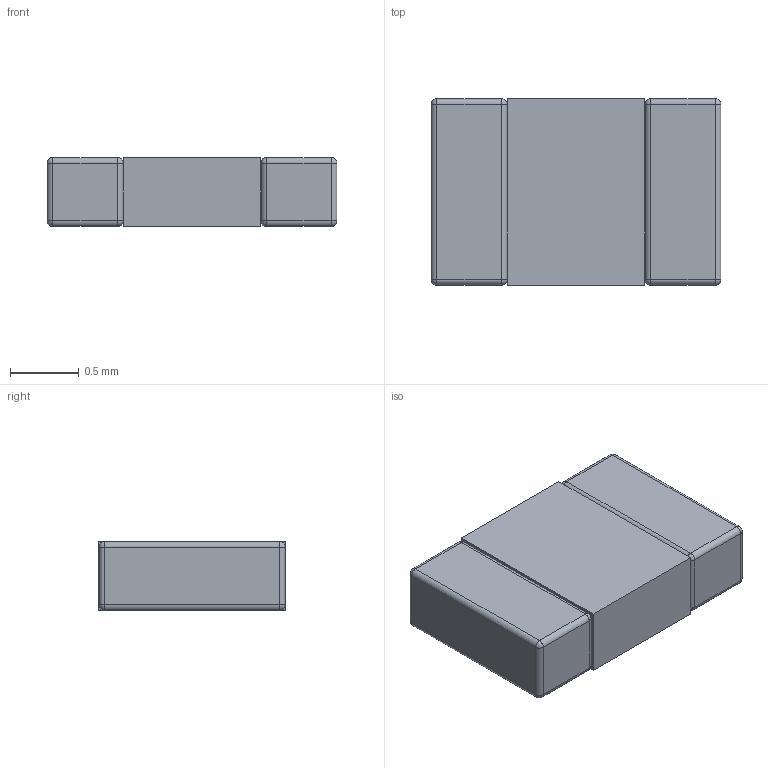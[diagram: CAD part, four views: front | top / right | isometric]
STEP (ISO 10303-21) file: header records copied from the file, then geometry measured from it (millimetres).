
FILE_DESCRIPTION(/* description */ (''),/* implementation_level */ '2;1');
FILE_NAME(/* name */ 'Z:/worker/forge-atf/tmp/job-2/8/output/76a4ef63-4995-445b-a593-771af82d9a63/chip_1625897470732.stp',/* time_stamp */ '2021-07-10T06:11:15+00:00',/* author */ (''),/* organization */ (''),/* preprocessor_version */ 'ST-DEVELOPER v18.1',/* originating_system */ 'ASM',/* authorisation */ '');
FILE_SCHEMA (('AUTOMOTIVE_DESIGN { 1 0 10303 214 3 1 1 }'));
Length unit declared in the file: millimetre
Products named in the file (1): chip_1625897470732
Bounding box: 2.1 x 1.35 x 0.5 mm (x, y, z)
Volume: 1.4 mm3; surface area: 9.4 mm2
Topology: 1 solids, 1 shells, 56 faces, 108 edges, 56 vertices
Faces by surface type: cylinder 24, sphere 16, plane 16
Entity records: 1459 total; most frequent: DIRECTION 270, CARTESIAN_POINT 221, ORIENTED_EDGE 216, EDGE_CURVE 108, AXIS2_PLACEMENT_3D 105, LINE 60, VECTOR 60, EDGE_LOOP 58
